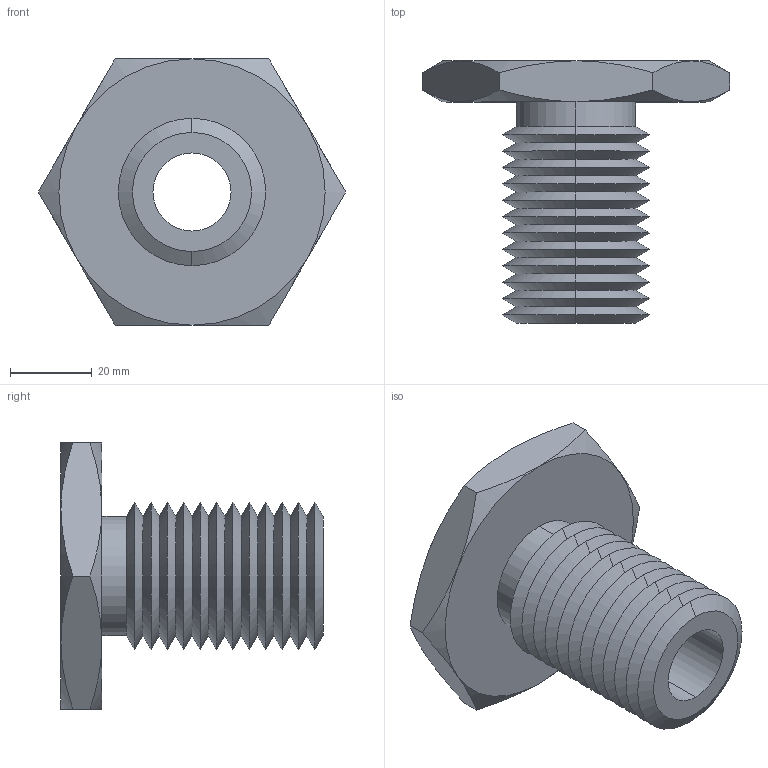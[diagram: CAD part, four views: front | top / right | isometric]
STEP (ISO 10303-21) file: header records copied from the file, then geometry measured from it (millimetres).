
FILE_DESCRIPTION (( 'STEP AP203' ), '1' );
FILE_NAME ('63302.W0036_0,75 UNC-10.step', '2013-12-08T11:11:52', ( 'User' ), ( '' ), 'SwSTEP 2.0', 'SolidWorks 2009', '' );
FILE_SCHEMA (( 'CONFIG_CONTROL_DESIGN' ));
Length unit declared in the file: millimetre
Products named in the file (1): 63302.W0036_0,75 UNC-10
Bounding box: 75.06 x 64 x 65 mm (x, y, z)
Volume: 61582.6 mm3; surface area: 22766.7 mm2
Topology: 1 solids, 1 shells, 75 faces, 154 edges, 82 vertices
Faces by surface type: cone 62, plane 9, cylinder 4
Entity records: 2139 total; most frequent: CARTESIAN_POINT 496, DIRECTION 352, ORIENTED_EDGE 308, EDGE_CURVE 154, AXIS2_PLACEMENT_3D 146, VERTEX_POINT 82, EDGE_LOOP 78, ADVANCED_FACE 75
